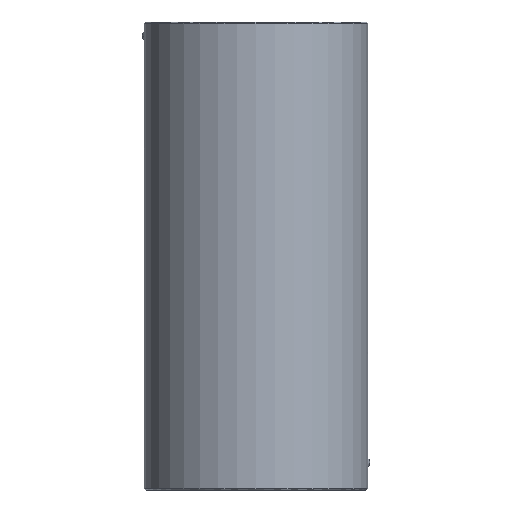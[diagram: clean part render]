
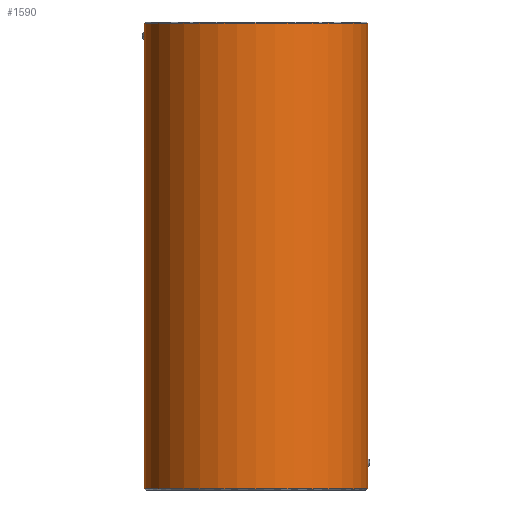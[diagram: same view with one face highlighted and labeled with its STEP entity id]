
A CAD part, front view. The second image highlights one B-rep face of the part: STEP entity #1590.
In plain terms, the highlighted cylindrical face has radius 33.5 mm (diameter 67 mm), a partial arc.
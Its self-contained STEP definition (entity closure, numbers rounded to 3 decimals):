
#1372=CARTESIAN_POINT('Vertex',(-33.5,0.,0.3)) ;
#1379=CARTESIAN_POINT('Vertex',(33.5,0.,0.3)) ;
#1382=CARTESIAN_POINT('Axis2P3D Location',(0.,0.,0.3)) ;
#1500=CARTESIAN_POINT('Axis2P3D Location',(0.,0.,140.)) ;
#1505=CARTESIAN_POINT('Line Origine',(33.5,0.,140.)) ;
#1509=CARTESIAN_POINT('Vertex',(33.5,0.,6.877)) ;
#1513=CARTESIAN_POINT('Control Point',(33.474,-1.326,8.462)) ;
#1514=CARTESIAN_POINT('Control Point',(33.47,-1.422,7.999)) ;
#1515=CARTESIAN_POINT('Control Point',(33.474,-1.307,7.489)) ;
#1516=CARTESIAN_POINT('Control Point',(33.492,-0.946,7.077)) ;
#1517=CARTESIAN_POINT('Control Point',(33.5,-0.473,6.877)) ;
#1518=CARTESIAN_POINT('Control Point',(33.5,0.,6.877)) ;
#1519=CARTESIAN_POINT('Vertex',(33.474,-1.326,8.462)) ;
#1523=CARTESIAN_POINT('Control Point',(33.5,0.,9.523)) ;
#1524=CARTESIAN_POINT('Control Point',(33.5,-0.368,9.523)) ;
#1525=CARTESIAN_POINT('Control Point',(33.495,-0.733,9.402)) ;
#1526=CARTESIAN_POINT('Control Point',(33.485,-1.05,9.157)) ;
#1527=CARTESIAN_POINT('Control Point',(33.477,-1.252,8.822)) ;
#1528=CARTESIAN_POINT('Control Point',(33.474,-1.326,8.462)) ;
#1529=CARTESIAN_POINT('Vertex',(33.5,0.,9.523)) ;
#1532=CARTESIAN_POINT('Line Origine',(33.5,0.,140.)) ;
#1536=CARTESIAN_POINT('Vertex',(33.5,0.,139.7)) ;
#1539=CARTESIAN_POINT('Axis2P3D Location',(0.,0.,139.7)) ;
#1543=CARTESIAN_POINT('Vertex',(-33.5,0.,139.7)) ;
#1546=CARTESIAN_POINT('Line Origine',(-33.5,0.,140.)) ;
#1550=CARTESIAN_POINT('Vertex',(-33.5,0.,137.223)) ;
#1554=CARTESIAN_POINT('Control Point',(-33.474,-1.326,135.638)) ;
#1555=CARTESIAN_POINT('Control Point',(-33.47,-1.422,136.101)) ;
#1556=CARTESIAN_POINT('Control Point',(-33.474,-1.307,136.611)) ;
#1557=CARTESIAN_POINT('Control Point',(-33.492,-0.946,137.023)) ;
#1558=CARTESIAN_POINT('Control Point',(-33.5,-0.473,137.223)) ;
#1559=CARTESIAN_POINT('Control Point',(-33.5,0.,137.223)) ;
#1560=CARTESIAN_POINT('Vertex',(-33.474,-1.326,135.638)) ;
#1564=CARTESIAN_POINT('Control Point',(-33.5,0.,134.577)) ;
#1565=CARTESIAN_POINT('Control Point',(-33.5,-0.368,134.577)) ;
#1566=CARTESIAN_POINT('Control Point',(-33.495,-0.733,134.698)) ;
#1567=CARTESIAN_POINT('Control Point',(-33.485,-1.05,134.943)) ;
#1568=CARTESIAN_POINT('Control Point',(-33.477,-1.252,135.278)) ;
#1569=CARTESIAN_POINT('Control Point',(-33.474,-1.326,135.638)) ;
#1570=CARTESIAN_POINT('Vertex',(-33.5,0.,134.577)) ;
#1573=CARTESIAN_POINT('Line Origine',(-33.5,0.,140.)) ;
#1383=DIRECTION('Axis2P3D Direction',(0.,-0.,1.)) ;
#1501=DIRECTION('Axis2P3D Direction',(0.,0.,-1.)) ;
#1502=DIRECTION('Axis2P3D XDirection',(1.,0.,0.)) ;
#1506=DIRECTION('Vector Direction',(0.,0.,-1.)) ;
#1533=DIRECTION('Vector Direction',(0.,0.,-1.)) ;
#1540=DIRECTION('Axis2P3D Direction',(0.,0.,-1.)) ;
#1547=DIRECTION('Vector Direction',(0.,0.,-1.)) ;
#1574=DIRECTION('Vector Direction',(0.,0.,-1.)) ;
#1384=AXIS2_PLACEMENT_3D('Circle Axis2P3D',#1382,#1383,$) ;
#1503=AXIS2_PLACEMENT_3D('Cylinder Axis2P3D',#1500,#1501,#1502) ;
#1541=AXIS2_PLACEMENT_3D('Circle Axis2P3D',#1539,#1540,$) ;
#1579=ORIENTED_EDGE('',*,*,#1511,.T.) ;
#1580=ORIENTED_EDGE('',*,*,#1521,.F.) ;
#1581=ORIENTED_EDGE('',*,*,#1531,.F.) ;
#1582=ORIENTED_EDGE('',*,*,#1538,.T.) ;
#1583=ORIENTED_EDGE('',*,*,#1545,.F.) ;
#1584=ORIENTED_EDGE('',*,*,#1552,.T.) ;
#1585=ORIENTED_EDGE('',*,*,#1562,.F.) ;
#1586=ORIENTED_EDGE('',*,*,#1572,.F.) ;
#1587=ORIENTED_EDGE('',*,*,#1577,.T.) ;
#1588=ORIENTED_EDGE('',*,*,#1386,.T.) ;
#1507=VECTOR('Line Direction',#1506,1.) ;
#1534=VECTOR('Line Direction',#1533,1.) ;
#1548=VECTOR('Line Direction',#1547,1.) ;
#1575=VECTOR('Line Direction',#1574,1.) ;
#1590=ADVANCED_FACE('730-60x140',(#1589),#1504,.T.) ;
#1512=B_SPLINE_CURVE_WITH_KNOTS('',5,(#1513,#1514,#1515,#1516,#1517,#1518),.UNSPECIFIED.,.F.,.U.,(6,6),(0.,3.352),.UNSPECIFIED.) ;
#1522=B_SPLINE_CURVE_WITH_KNOTS('',5,(#1523,#1524,#1525,#1526,#1527,#1528),.UNSPECIFIED.,.F.,.U.,(6,6),(0.,2.604),.UNSPECIFIED.) ;
#1553=B_SPLINE_CURVE_WITH_KNOTS('',5,(#1554,#1555,#1556,#1557,#1558,#1559),.UNSPECIFIED.,.F.,.U.,(6,6),(0.,3.352),.UNSPECIFIED.) ;
#1563=B_SPLINE_CURVE_WITH_KNOTS('',5,(#1564,#1565,#1566,#1567,#1568,#1569),.UNSPECIFIED.,.F.,.U.,(6,6),(0.,2.604),.UNSPECIFIED.) ;
#1385=CIRCLE('generated circle',#1384,33.5) ;
#1542=CIRCLE('generated circle',#1541,33.5) ;
#1504=CYLINDRICAL_SURFACE('generated cylinder',#1503,33.5) ;
#1386=EDGE_CURVE('',#1373,#1380,#1385,.T.) ;
#1511=EDGE_CURVE('',#1380,#1510,#1508,.F.) ;
#1521=EDGE_CURVE('',#1520,#1510,#1512,.T.) ;
#1531=EDGE_CURVE('',#1530,#1520,#1522,.T.) ;
#1538=EDGE_CURVE('',#1530,#1537,#1535,.F.) ;
#1545=EDGE_CURVE('',#1544,#1537,#1542,.F.) ;
#1552=EDGE_CURVE('',#1544,#1551,#1549,.T.) ;
#1562=EDGE_CURVE('',#1561,#1551,#1553,.T.) ;
#1572=EDGE_CURVE('',#1571,#1561,#1563,.T.) ;
#1577=EDGE_CURVE('',#1571,#1373,#1576,.T.) ;
#1578=EDGE_LOOP('',(#1579,#1580,#1581,#1582,#1583,#1584,#1585,#1586,#1587,#1588)) ;
#1589=FACE_OUTER_BOUND('',#1578,.T.) ;
#1508=LINE('Line',#1505,#1507) ;
#1535=LINE('Line',#1532,#1534) ;
#1549=LINE('Line',#1546,#1548) ;
#1576=LINE('Line',#1573,#1575) ;
#1373=VERTEX_POINT('',#1372) ;
#1380=VERTEX_POINT('',#1379) ;
#1510=VERTEX_POINT('',#1509) ;
#1520=VERTEX_POINT('',#1519) ;
#1530=VERTEX_POINT('',#1529) ;
#1537=VERTEX_POINT('',#1536) ;
#1544=VERTEX_POINT('',#1543) ;
#1551=VERTEX_POINT('',#1550) ;
#1561=VERTEX_POINT('',#1560) ;
#1571=VERTEX_POINT('',#1570) ;
